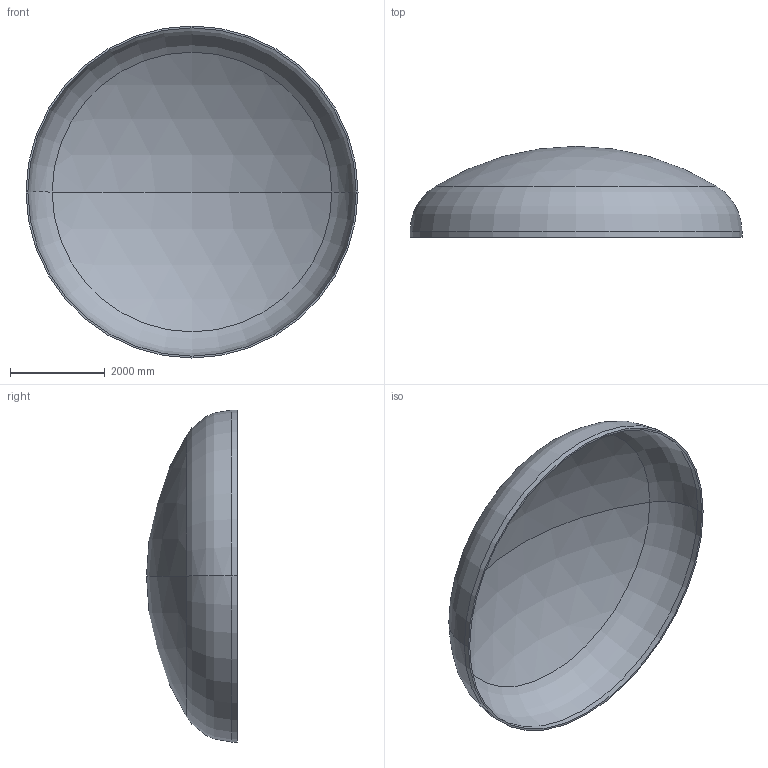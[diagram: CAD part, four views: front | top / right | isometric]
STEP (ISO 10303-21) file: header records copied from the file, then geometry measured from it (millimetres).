
FILE_DESCRIPTION (( 'STEP AP203' ), '1' );
FILE_NAME ('DIN 28013 Korbbogenform_-_Boden DIN 28013 - 7000 x 120 - I - s=40.step', '2016-07-04T10:47:13', ( '' ), ( '' ), 'SwSTEP 2.0', 'SolidWorks 2013', '' );
FILE_SCHEMA (( 'CONFIG_CONTROL_DESIGN' ));
Length unit declared in the file: millimetre
Products named in the file (1): DIN 28013 Korbbogenform_-_Boden DIN 28013 - 7000 x 120 - I - s=40
Bounding box: 7000 x 1917.34 x 7000 mm (x, y, z)
Volume: 2221748186.1 mm3; surface area: 111965336.2 mm2
Topology: 1 solids, 1 shells, 13 faces, 24 edges, 14 vertices
Faces by surface type: torus 4, cylinder 4, sphere 4, plane 1
Entity records: 407 total; most frequent: DIRECTION 72, CARTESIAN_POINT 52, ORIENTED_EDGE 48, AXIS2_PLACEMENT_3D 34, EDGE_CURVE 24, CIRCLE 20, EDGE_LOOP 14, VERTEX_POINT 14
